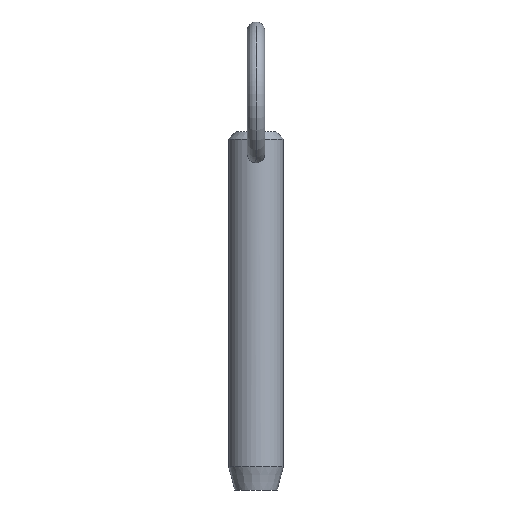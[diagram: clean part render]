
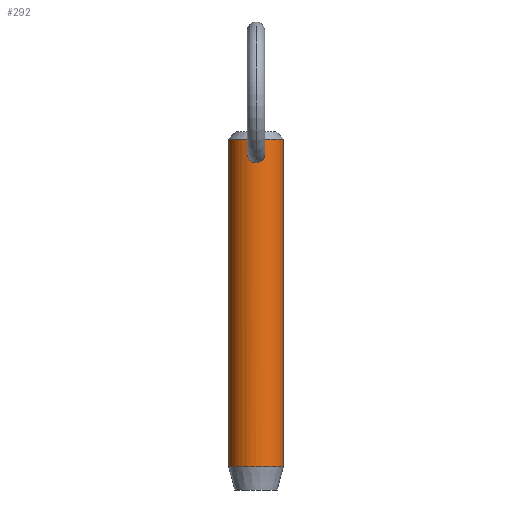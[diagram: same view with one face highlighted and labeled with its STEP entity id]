
A CAD part, front view. The second image highlights one B-rep face of the part: STEP entity #292.
In plain terms, the highlighted cylindrical face has radius 4.76 mm (diameter 9.52 mm), a partial arc.
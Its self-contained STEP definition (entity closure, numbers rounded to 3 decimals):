
#7 = DIRECTION ( 'NONE',  ( 0., 0., -1. ) ) ;
#8 = ORIENTED_EDGE ( 'NONE', *, *, #191, .T. ) ;
#10 = CARTESIAN_POINT ( 'NONE',  ( 4.76, 0., 43.2 ) ) ;
#26 = CARTESIAN_POINT ( 'NONE',  ( -1.487, -4.522, 45.953 ) ) ;
#34 = CARTESIAN_POINT ( 'NONE',  ( -0.208, -4.757, 47.434 ) ) ;
#39 = CARTESIAN_POINT ( 'NONE',  ( 0., -4.76, 47.448 ) ) ;
#41 = CARTESIAN_POINT ( 'NONE',  ( 0.506, -4.734, 47.337 ) ) ;
#44 = CARTESIAN_POINT ( 'NONE',  ( 0.512, -4.733, 44.208 ) ) ;
#46 = EDGE_CURVE ( 'NONE', #178, #504, #424, .T. ) ;
#50 = CARTESIAN_POINT ( 'NONE',  ( 1.473, -4.526, 45.331 ) ) ;
#71 = CARTESIAN_POINT ( 'NONE',  ( -0.416, -4.746, 44.167 ) ) ;
#75 = VERTEX_POINT ( 'NONE', #444 ) ;
#81 = CARTESIAN_POINT ( 'NONE',  ( 4.76, 0., 48.25 ) ) ;
#85 = CARTESIAN_POINT ( 'NONE',  ( 1.503, -4.517, 45.64 ) ) ;
#94 = DIRECTION ( 'NONE',  ( -1., 0., 0. ) ) ;
#104 = CARTESIAN_POINT ( 'NONE',  ( -4.76, 0., 48.25 ) ) ;
#121 = CARTESIAN_POINT ( 'NONE',  ( -0.793, -4.694, 44.339 ) ) ;
#123 = CARTESIAN_POINT ( 'NONE',  ( -1.19, -4.611, 46.724 ) ) ;
#124 = CARTESIAN_POINT ( 'NONE',  ( 0., -4.76, 47.448 ) ) ;
#126 = CARTESIAN_POINT ( 'NONE',  ( 0.409, -4.743, 47.378 ) ) ;
#127 = CARTESIAN_POINT ( 'NONE',  ( 1.499, -4.518, 45.537 ) ) ;
#128 = CARTESIAN_POINT ( 'NONE',  ( 0.77, -4.698, 47.175 ) ) ;
#131 = CIRCLE ( 'NONE', #479, 4.76 ) ;
#132 = CARTESIAN_POINT ( 'NONE',  ( 0.411, -4.743, 44.177 ) ) ;
#157 = ORIENTED_EDGE ( 'NONE', *, *, #462, .T. ) ;
#160 = CARTESIAN_POINT ( 'NONE',  ( -0.703, -4.709, 44.289 ) ) ;
#162 = CARTESIAN_POINT ( 'NONE',  ( -1.039, -4.646, 44.526 ) ) ;
#166 = CARTESIAN_POINT ( 'NONE',  ( -0.504, -4.734, 47.338 ) ) ;
#168 = CARTESIAN_POINT ( 'NONE',  ( 0.925, -4.67, 47.039 ) ) ;
#174 = CARTESIAN_POINT ( 'NONE',  ( 0.797, -4.697, 44.329 ) ) ;
#175 = AXIS2_PLACEMENT_3D ( 'NONE', #368, #489, #94 ) ;
#176 = VECTOR ( 'NONE', #299, 1000. ) ;
#177 = CARTESIAN_POINT ( 'NONE',  ( 0.97, -4.662, 44.45 ) ) ;
#178 = VERTEX_POINT ( 'NONE', #209 ) ;
#191 = EDGE_CURVE ( 'NONE', #410, #378, #236, .T. ) ;
#200 = EDGE_CURVE ( 'NONE', #504, #178, #204, .T. ) ;
#203 = CARTESIAN_POINT ( 'NONE',  ( -1.353, -4.564, 44.935 ) ) ;
#204 = B_SPLINE_CURVE_WITH_KNOTS ( 'NONE', 3,
 ( #124, #358, #518, #126, #41, #319, #128, #168, #447, #207, #484, #247, #404, #280, #525, #85, #127, #50, #324, #413, #215, #290, #411, #177, #174, #44, #132, #492, #286, #327 ),
 .UNSPECIFIED., .F., .F.,
 ( 4, 2, 2, 2, 2, 2, 2, 2, 2, 2, 2, 2, 2, 2, 4 ),
 ( 0.004, 0.005, 0.005, 0.005, 0.006, 0.006, 0.007, 0.007, 0.007, 0.007, 0.008, 0.008, 0.009, 0.009, 0.009 ),
 .UNSPECIFIED. ) ;
#207 = CARTESIAN_POINT ( 'NONE',  ( 1.19, -4.611, 46.724 ) ) ;
#208 = CARTESIAN_POINT ( 'NONE',  ( -0.103, -4.76, 47.448 ) ) ;
#209 = CARTESIAN_POINT ( 'NONE',  ( 0., -4.76, 44.126 ) ) ;
#215 = CARTESIAN_POINT ( 'NONE',  ( 1.344, -4.567, 44.939 ) ) ;
#219 = VERTEX_POINT ( 'NONE', #81 ) ;
#236 = LINE ( 'NONE', #398, #490 ) ;
#246 = DIRECTION ( 'NONE',  ( 0., 0., -1. ) ) ;
#247 = CARTESIAN_POINT ( 'NONE',  ( 1.404, -4.548, 46.253 ) ) ;
#269 = CARTESIAN_POINT ( 'NONE',  ( -1.508, -4.515, 45.537 ) ) ;
#275 = EDGE_CURVE ( 'NONE', #219, #410, #131, .T. ) ;
#277 = LINE ( 'NONE', #10, #176 ) ;
#280 = CARTESIAN_POINT ( 'NONE',  ( 1.478, -4.525, 45.952 ) ) ;
#286 = CARTESIAN_POINT ( 'NONE',  ( 0.105, -4.76, 44.126 ) ) ;
#290 = CARTESIAN_POINT ( 'NONE',  ( 1.24, -4.596, 44.76 ) ) ;
#292 = ADVANCED_FACE ( 'NONE', ( #393, #344 ), #445, .T. ) ;
#299 = DIRECTION ( 'NONE',  ( 0., 0., -1. ) ) ;
#308 = CARTESIAN_POINT ( 'NONE',  ( 0., -4.76, 44.126 ) ) ;
#319 = CARTESIAN_POINT ( 'NONE',  ( 0.687, -4.711, 47.235 ) ) ;
#324 = CARTESIAN_POINT ( 'NONE',  ( 1.45, -4.534, 45.228 ) ) ;
#327 = CARTESIAN_POINT ( 'NONE',  ( 0., -4.76, 44.126 ) ) ;
#329 = ORIENTED_EDGE ( 'NONE', *, *, #46, .T. ) ;
#344 = FACE_BOUND ( 'NONE', #482, .T. ) ;
#347 = CARTESIAN_POINT ( 'NONE',  ( 0., 0., -8.7 ) ) ;
#348 = AXIS2_PLACEMENT_3D ( 'NONE', #347, #390, #434 ) ;
#358 = CARTESIAN_POINT ( 'NONE',  ( 0.104, -4.76, 47.448 ) ) ;
#368 = CARTESIAN_POINT ( 'NONE',  ( 0., 0., 43.2 ) ) ;
#370 = DIRECTION ( 'NONE',  ( 1., 0., 0. ) ) ;
#378 = VERTEX_POINT ( 'NONE', #493 ) ;
#390 = DIRECTION ( 'NONE',  ( 0., 0., 1. ) ) ;
#393 = FACE_OUTER_BOUND ( 'NONE', #469, .T. ) ;
#394 = CARTESIAN_POINT ( 'NONE',  ( -0.961, -4.663, 44.457 ) ) ;
#396 = CARTESIAN_POINT ( 'NONE',  ( -0.409, -4.743, 47.378 ) ) ;
#398 = CARTESIAN_POINT ( 'NONE',  ( -4.76, 0., 43.2 ) ) ;
#401 = ORIENTED_EDGE ( 'NONE', *, *, #275, .T. ) ;
#404 = CARTESIAN_POINT ( 'NONE',  ( 1.434, -4.539, 46.154 ) ) ;
#406 = EDGE_CURVE ( 'NONE', #219, #75, #277, .T. ) ;
#410 = VERTEX_POINT ( 'NONE', #104 ) ;
#411 = CARTESIAN_POINT ( 'NONE',  ( 1.178, -4.613, 44.676 ) ) ;
#413 = CARTESIAN_POINT ( 'NONE',  ( 1.385, -4.554, 45.032 ) ) ;
#424 = B_SPLINE_CURVE_WITH_KNOTS ( 'NONE', 3,
 ( #308, #517, #71, #160, #121, #394, #162, #443, #203, #481, #269, #26, #448, #483, #123, #449, #520, #166, #396, #34, #208, #39 ),
 .UNSPECIFIED., .F., .F.,
 ( 4, 2, 2, 2, 2, 2, 2, 2, 2, 2, 4 ),
 ( 0.009, 0.01, 0.01, 0.011, 0.011, 0.012, 0.012, 0.013, 0.014, 0.014, 0.014 ),
 .UNSPECIFIED. ) ;
#434 = DIRECTION ( 'NONE',  ( -1., 0., 0. ) ) ;
#437 = CIRCLE ( 'NONE', #348, 4.76 ) ;
#443 = CARTESIAN_POINT ( 'NONE',  ( -1.247, -4.596, 44.752 ) ) ;
#444 = CARTESIAN_POINT ( 'NONE',  ( 4.76, 0., -8.7 ) ) ;
#445 = CYLINDRICAL_SURFACE ( 'NONE', #175, 4.76 ) ;
#447 = CARTESIAN_POINT ( 'NONE',  ( 0.997, -4.655, 46.964 ) ) ;
#448 = CARTESIAN_POINT ( 'NONE',  ( -1.441, -4.537, 46.157 ) ) ;
#449 = CARTESIAN_POINT ( 'NONE',  ( -0.932, -4.67, 47.045 ) ) ;
#462 = EDGE_CURVE ( 'NONE', #378, #75, #437, .T. ) ;
#469 = EDGE_LOOP ( 'NONE', ( #522, #401, #8, #157 ) ) ;
#471 = ORIENTED_EDGE ( 'NONE', *, *, #200, .T. ) ;
#479 = AXIS2_PLACEMENT_3D ( 'NONE', #488, #7, #370 ) ;
#481 = CARTESIAN_POINT ( 'NONE',  ( -1.483, -4.524, 45.326 ) ) ;
#482 = EDGE_LOOP ( 'NONE', ( #471, #329 ) ) ;
#483 = CARTESIAN_POINT ( 'NONE',  ( -1.292, -4.582, 46.545 ) ) ;
#484 = CARTESIAN_POINT ( 'NONE',  ( 1.293, -4.582, 46.542 ) ) ;
#488 = CARTESIAN_POINT ( 'NONE',  ( 0., 0., 48.25 ) ) ;
#489 = DIRECTION ( 'NONE',  ( 0., 0., -1. ) ) ;
#490 = VECTOR ( 'NONE', #246, 1000. ) ;
#492 = CARTESIAN_POINT ( 'NONE',  ( 0.208, -4.757, 44.136 ) ) ;
#493 = CARTESIAN_POINT ( 'NONE',  ( -4.76, 0., -8.7 ) ) ;
#504 = VERTEX_POINT ( 'NONE', #513 ) ;
#513 = CARTESIAN_POINT ( 'NONE',  ( 0., -4.76, 47.448 ) ) ;
#517 = CARTESIAN_POINT ( 'NONE',  ( -0.21, -4.76, 44.126 ) ) ;
#518 = CARTESIAN_POINT ( 'NONE',  ( 0.209, -4.756, 47.434 ) ) ;
#520 = CARTESIAN_POINT ( 'NONE',  ( -0.777, -4.7, 47.185 ) ) ;
#522 = ORIENTED_EDGE ( 'NONE', *, *, #406, .F. ) ;
#525 = CARTESIAN_POINT ( 'NONE',  ( 1.492, -4.52, 45.848 ) ) ;
